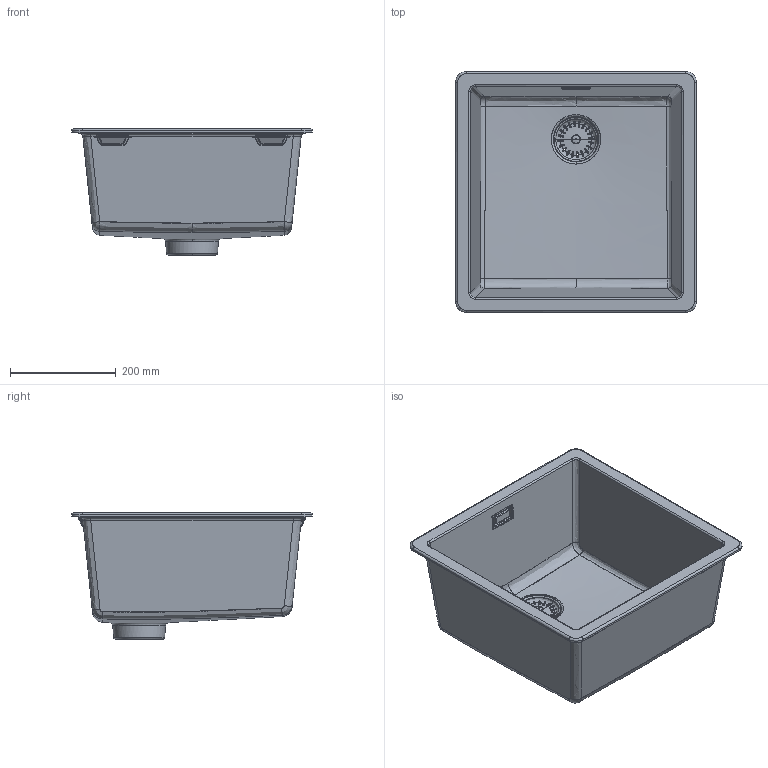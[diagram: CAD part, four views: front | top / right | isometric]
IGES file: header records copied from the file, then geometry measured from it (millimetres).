
Global section: file name: /Volumes/__KUNDEN/____01_SCHOCK/____projekte_schock/___RENDER/_SPU; native system: Rhinoceros ( Aug 27 2014 ); preprocessor: Trout Lake IGES 012 Aug 27 2014; date: 151119.110650; units: millimetre
Bounding box: 456 x 456 x 238.47 mm (x, y, z)
Surface area: 962245.5 mm2 (no closed solid volume)
Topology: 0 solids, 0 shells, 508 faces, 44143 edges, 44137 vertices
Faces by surface type: bspline 508
